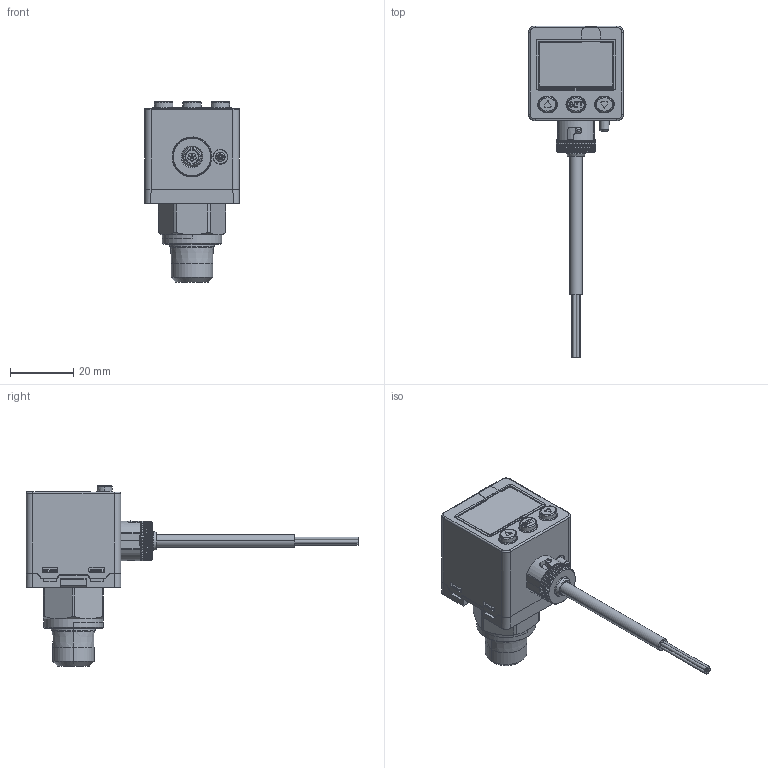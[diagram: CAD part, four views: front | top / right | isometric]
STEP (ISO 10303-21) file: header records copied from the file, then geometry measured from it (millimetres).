
FILE_DESCRIPTION((''),'2;1');
FILE_NAME('KP50_F1','2019-07-08T',('Stark'),(''),'CREO PARAMETRIC BY PTC INC, 2014500','CREO PARAMETRIC BY PTC INC, 2014500','');
FILE_SCHEMA(('CONFIG_CONTROL_DESIGN'));
Length unit declared in the file: millimetre
Products named in the file (1): KP50_F1
Bounding box: 30.08 x 105.34 x 57.2 mm (x, y, z)
Volume: 33747.2 mm3; surface area: 10752.2 mm2
Topology: 1 solids, 1 shells, 1026 faces, 2794 edges, 1805 vertices
Faces by surface type: plane 426, cylinder 292, cone 188, bspline 82, torus 28, extrusion 6, sphere 4
Entity records: 40174 total; most frequent: CARTESIAN_POINT 15872, ORIENTED_EDGE 5584, DIRECTION 4291, EDGE_CURVE 2792, VERTEX_POINT 1805, AXIS2_PLACEMENT_3D 1507, VECTOR 1277, LINE 1271
